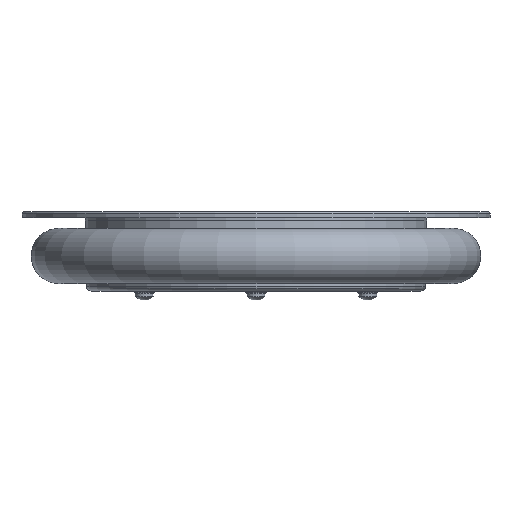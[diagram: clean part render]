
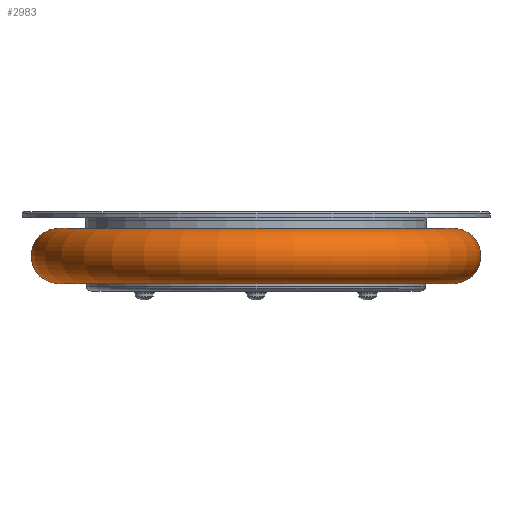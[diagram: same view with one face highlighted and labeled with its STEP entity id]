
A CAD part, front view. The second image highlights one B-rep face of the part: STEP entity #2983.
In plain terms, the highlighted toroidal (fillet/blend) face has major radius 107 mm and minor radius 15 mm.
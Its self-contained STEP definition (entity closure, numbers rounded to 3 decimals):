
#263=TOROIDAL_SURFACE('',#3487,107.,15.);
#436=FACE_OUTER_BOUND('',#685,.T.);
#685=EDGE_LOOP('',(#2561,#2562,#2563,#2564,#2565,#2566));
#1173=CIRCLE('',#3485,15.);
#1174=CIRCLE('',#3486,15.);
#1175=CIRCLE('',#3488,92.);
#1176=CIRCLE('',#3489,15.);
#1177=CIRCLE('',#3490,15.);
#1461=VERTEX_POINT('',#5812);
#1462=VERTEX_POINT('',#5814);
#1463=VERTEX_POINT('',#5818);
#1464=VERTEX_POINT('',#5820);
#1837=EDGE_CURVE('',#1461,#1462,#1173,.T.);
#1838=EDGE_CURVE('',#1462,#1461,#1174,.T.);
#1839=EDGE_CURVE('',#1462,#1463,#1175,.T.);
#1840=EDGE_CURVE('',#1463,#1464,#1176,.T.);
#1841=EDGE_CURVE('',#1464,#1463,#1177,.T.);
#2561=ORIENTED_EDGE('',*,*,#1837,.F.);
#2562=ORIENTED_EDGE('',*,*,#1838,.F.);
#2563=ORIENTED_EDGE('',*,*,#1839,.T.);
#2564=ORIENTED_EDGE('',*,*,#1840,.T.);
#2565=ORIENTED_EDGE('',*,*,#1841,.T.);
#2566=ORIENTED_EDGE('',*,*,#1839,.F.);
#2983=ADVANCED_FACE('',(#436),#263,.T.);
#3485=AXIS2_PLACEMENT_3D('',#5815,#4380,#4381);
#3486=AXIS2_PLACEMENT_3D('',#5816,#4382,#4383);
#3487=AXIS2_PLACEMENT_3D('',#5817,#4384,#4385);
#3488=AXIS2_PLACEMENT_3D('',#5819,#4386,#4387);
#3489=AXIS2_PLACEMENT_3D('',#5821,#4388,#4389);
#3490=AXIS2_PLACEMENT_3D('',#5822,#4390,#4391);
#4380=DIRECTION('center_axis',(0.,1.,0.));
#4381=DIRECTION('ref_axis',(-1.,0.,0.));
#4382=DIRECTION('center_axis',(0.,1.,0.));
#4383=DIRECTION('ref_axis',(-1.,0.,0.));
#4384=DIRECTION('center_axis',(0.,0.,1.));
#4385=DIRECTION('ref_axis',(1.,0.,0.));
#4386=DIRECTION('center_axis',(0.,0.,-1.));
#4387=DIRECTION('ref_axis',(1.,0.,0.));
#4388=DIRECTION('center_axis',(0.,-1.,0.));
#4389=DIRECTION('ref_axis',(1.,0.,0.));
#4390=DIRECTION('center_axis',(0.,-1.,0.));
#4391=DIRECTION('ref_axis',(1.,0.,0.));
#5812=CARTESIAN_POINT('',(122.,-826.171,0.));
#5814=CARTESIAN_POINT('',(92.,-826.171,0.));
#5815=CARTESIAN_POINT('Origin',(107.,-826.171,0.));
#5816=CARTESIAN_POINT('Origin',(107.,-826.171,0.));
#5817=CARTESIAN_POINT('Origin',(0.,-826.171,
0.));
#5818=CARTESIAN_POINT('',(-92.,-826.171,0.));
#5819=CARTESIAN_POINT('Origin',(0.,-826.171,
0.));
#5820=CARTESIAN_POINT('',(-122.,-826.171,0.));
#5821=CARTESIAN_POINT('Origin',(-107.,-826.171,0.));
#5822=CARTESIAN_POINT('Origin',(-107.,-826.171,0.));
